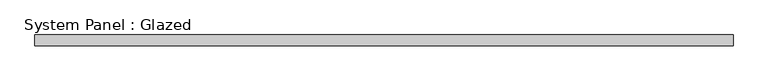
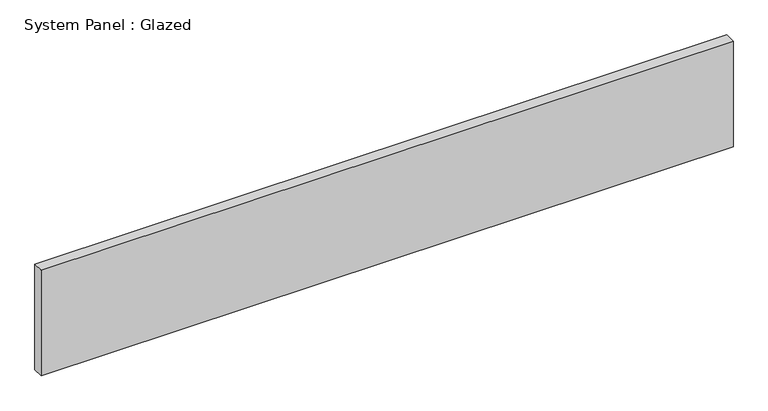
"""IFC4 building model written with IfcOpenShell, lengths in millimetres: plate geometry, System Panel : Glazed."""

from ifc_helpers import new_model, si_unit, origin, origin_with_axes, place, context, project, spatial, polyline, outline, extrude, source, transform, mapped, element, save


def system_panel_glazed_b2c14eaf(model_context):
    return source(origin(), model_context, "Body", "SweptSolid", [
        extrude(outline(polyline([(805.9441409, 24.5), (-805.9441409, 24.5), (-805.9441409, 49.5), (805.9441409, 49.5), (805.9441409, 24.5)])), origin_with_axes(), (0.0, 0.0, 1.0), 260.0),
    ])


if __name__ == "__main__":
    model = new_model("IFC4")
    model_context = context("Model", 3, world=origin())
    ifc_project = project(units=[si_unit("LENGTHUNIT", "METRE", prefix="MILLI")], contexts=[model_context])
    site = spatial("IfcSite", under=ifc_project)
    building = spatial("IfcBuilding", under=site)
    placement = place(None, origin())
    system_panel_glazed_shape = system_panel_glazed_b2c14eaf(model_context)
    element("IfcPlate", 1, ObjectType="System Panel : Glazed", at=placement, inside=building, context=model_context, shape_type="MappedRepresentation", body=[
        mapped(system_panel_glazed_shape, transform((0.0, 0.0, 0.0), x_axis=(1.0, 0.0, 0.0), y_axis=(0.0, 1.0, 0.0), z_axis=(0.0, 0.0, 1.0))),
    ])
    save(model, "model.ifc")
